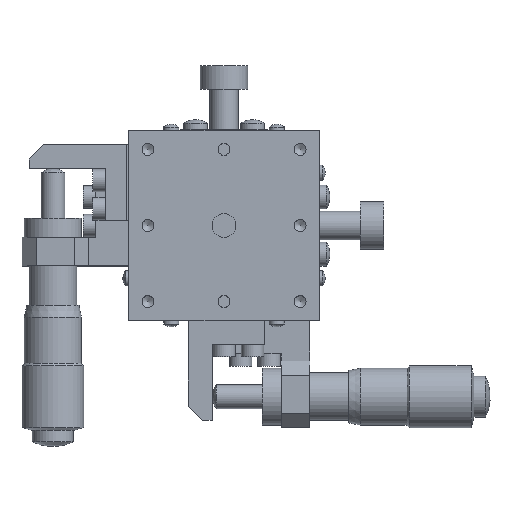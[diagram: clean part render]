
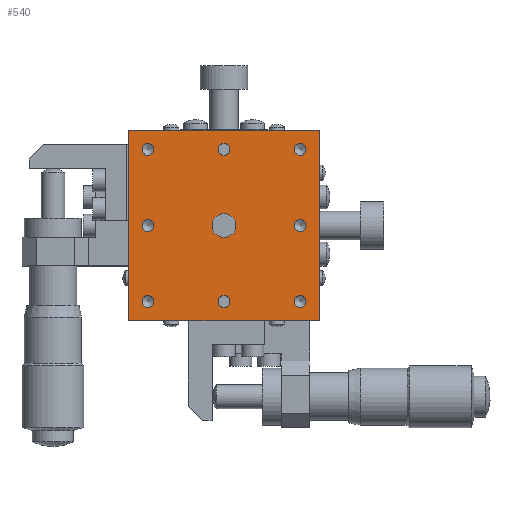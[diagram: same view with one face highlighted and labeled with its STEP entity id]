
A CAD part, top view. The second image highlights one B-rep face of the part: STEP entity #540.
In plain terms, the highlighted planar face has unit normal (0, 0, 1).
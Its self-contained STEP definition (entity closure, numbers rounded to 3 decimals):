
#540 = ADVANCED_FACE( '', ( #1265, #1266, #1267, #1268, #1269, #1270, #1271, #1272, #1273, #1274 ), #1275, .T. );
#1265 = FACE_BOUND( '', #2238, .T. );
#1266 = FACE_BOUND( '', #2239, .T. );
#1267 = FACE_BOUND( '', #2240, .T. );
#1268 = FACE_BOUND( '', #2241, .T. );
#1269 = FACE_BOUND( '', #2242, .T. );
#1270 = FACE_BOUND( '', #2243, .T. );
#1271 = FACE_BOUND( '', #2244, .T. );
#1272 = FACE_BOUND( '', #2245, .T. );
#1273 = FACE_OUTER_BOUND( '', #2246, .T. );
#1274 = FACE_BOUND( '', #2247, .T. );
#1275 = PLANE( '', #2248 );
#2238 = EDGE_LOOP( '', ( #3673 ) );
#2239 = EDGE_LOOP( '', ( #3674 ) );
#2240 = EDGE_LOOP( '', ( #3675 ) );
#2241 = EDGE_LOOP( '', ( #3676 ) );
#2242 = EDGE_LOOP( '', ( #3677 ) );
#2243 = EDGE_LOOP( '', ( #3678 ) );
#2244 = EDGE_LOOP( '', ( #3679 ) );
#2245 = EDGE_LOOP( '', ( #3680 ) );
#2246 = EDGE_LOOP( '', ( #3681, #3682, #3683, #3684 ) );
#2247 = EDGE_LOOP( '', ( #3685 ) );
#2248 = AXIS2_PLACEMENT_3D( '', #3686, #3687, #3688 );
#3673 = ORIENTED_EDGE( '', *, *, #5015, .T. );
#3674 = ORIENTED_EDGE( '', *, *, #5284, .T. );
#3675 = ORIENTED_EDGE( '', *, *, #5437, .T. );
#3676 = ORIENTED_EDGE( '', *, *, #5438, .T. );
#3677 = ORIENTED_EDGE( '', *, *, #5205, .T. );
#3678 = ORIENTED_EDGE( '', *, *, #5439, .T. );
#3679 = ORIENTED_EDGE( '', *, *, #5428, .T. );
#3680 = ORIENTED_EDGE( '', *, *, #5108, .T. );
#3681 = ORIENTED_EDGE( '', *, *, #5440, .T. );
#3682 = ORIENTED_EDGE( '', *, *, #5441, .T. );
#3683 = ORIENTED_EDGE( '', *, *, #5085, .T. );
#3684 = ORIENTED_EDGE( '', *, *, #5410, .T. );
#3685 = ORIENTED_EDGE( '', *, *, #5281, .T. );
#3686 = CARTESIAN_POINT( '', ( 0., 0., 22. ) );
#3687 = DIRECTION( '', ( 0., 0., 1. ) );
#3688 = DIRECTION( '', ( 1., 0., 0. ) );
#5015 = EDGE_CURVE( '', #5864, #5864, #5865, .T. );
#5085 = EDGE_CURVE( '', #5988, #5986, #5989, .T. );
#5108 = EDGE_CURVE( '', #6028, #6028, #6029, .T. );
#5205 = EDGE_CURVE( '', #6187, #6187, #6188, .T. );
#5281 = EDGE_CURVE( '', #6308, #6308, #6309, .T. );
#5284 = EDGE_CURVE( '', #6312, #6312, #6313, .T. );
#5410 = EDGE_CURVE( '', #5986, #6504, #6506, .T. );
#5428 = EDGE_CURVE( '', #6533, #6533, #6534, .T. );
#5437 = EDGE_CURVE( '', #6546, #6546, #6547, .T. );
#5438 = EDGE_CURVE( '', #6548, #6548, #6549, .T. );
#5439 = EDGE_CURVE( '', #6550, #6550, #6551, .T. );
#5440 = EDGE_CURVE( '', #6504, #6552, #6553, .T. );
#5441 = EDGE_CURVE( '', #6552, #5988, #6554, .T. );
#5864 = VERTEX_POINT( '', #7096 );
#5865 = CIRCLE( '', #7097, 1.25 );
#5986 = VERTEX_POINT( '', #7248 );
#5988 = VERTEX_POINT( '', #7251 );
#5989 = LINE( '', #7252, #7253 );
#6028 = VERTEX_POINT( '', #7305 );
#6029 = CIRCLE( '', #7306, 1.25 );
#6187 = VERTEX_POINT( '', #7513 );
#6188 = CIRCLE( '', #7514, 1.25 );
#6308 = VERTEX_POINT( '', #7667 );
#6309 = CIRCLE( '', #7668, 2.5 );
#6312 = VERTEX_POINT( '', #7671 );
#6313 = CIRCLE( '', #7672, 1.25 );
#6504 = VERTEX_POINT( '', #7936 );
#6506 = LINE( '', #7939, #7940 );
#6533 = VERTEX_POINT( '', #7975 );
#6534 = CIRCLE( '', #7976, 1.25 );
#6546 = VERTEX_POINT( '', #7990 );
#6547 = CIRCLE( '', #7991, 1.25 );
#6548 = VERTEX_POINT( '', #7992 );
#6549 = CIRCLE( '', #7993, 1.25 );
#6550 = VERTEX_POINT( '', #7994 );
#6551 = CIRCLE( '', #7995, 1.25 );
#6552 = VERTEX_POINT( '', #7996 );
#6553 = LINE( '', #7997, #7998 );
#6554 = LINE( '', #7999, #8000 );
#7096 = CARTESIAN_POINT( '', ( -16., -1.25, 22. ) );
#7097 = AXIS2_PLACEMENT_3D( '', #8625, #8626, #8627 );
#7248 = CARTESIAN_POINT( '', ( -20., 20., 22. ) );
#7251 = CARTESIAN_POINT( '', ( 20., 20., 22. ) );
#7252 = CARTESIAN_POINT( '', ( 0., 20., 22. ) );
#7253 = VECTOR( '', #8728, 1000. );
#7305 = CARTESIAN_POINT( '', ( -16., -17.25, 22. ) );
#7306 = AXIS2_PLACEMENT_3D( '', #8757, #8758, #8759 );
#7513 = CARTESIAN_POINT( '', ( 16., -1.25, 22. ) );
#7514 = AXIS2_PLACEMENT_3D( '', #8884, #8885, #8886 );
#7667 = CARTESIAN_POINT( '', ( -2.5, 0., 22. ) );
#7668 = AXIS2_PLACEMENT_3D( '', #8983, #8984, #8985 );
#7671 = CARTESIAN_POINT( '', ( -16., 14.75, 22. ) );
#7672 = AXIS2_PLACEMENT_3D( '', #8986, #8987, #8988 );
#7936 = CARTESIAN_POINT( '', ( -20., -20., 22. ) );
#7939 = CARTESIAN_POINT( '', ( -20., 0., 22. ) );
#7940 = VECTOR( '', #9123, 1000. );
#7975 = CARTESIAN_POINT( '', ( 0., -17.25, 22. ) );
#7976 = AXIS2_PLACEMENT_3D( '', #9141, #9142, #9143 );
#7990 = CARTESIAN_POINT( '', ( 0., 14.75, 22. ) );
#7991 = AXIS2_PLACEMENT_3D( '', #9155, #9156, #9157 );
#7992 = CARTESIAN_POINT( '', ( 16., 14.75, 22. ) );
#7993 = AXIS2_PLACEMENT_3D( '', #9158, #9159, #9160 );
#7994 = CARTESIAN_POINT( '', ( 16., -17.25, 22. ) );
#7995 = AXIS2_PLACEMENT_3D( '', #9161, #9162, #9163 );
#7996 = CARTESIAN_POINT( '', ( 20., -20., 22. ) );
#7997 = CARTESIAN_POINT( '', ( 0., -20., 22. ) );
#7998 = VECTOR( '', #9164, 1000. );
#7999 = CARTESIAN_POINT( '', ( 20., 0., 22. ) );
#8000 = VECTOR( '', #9165, 1000. );
#8625 = CARTESIAN_POINT( '', ( -16., 0., 22. ) );
#8626 = DIRECTION( '', ( 0., 0., -1. ) );
#8627 = DIRECTION( '', ( 0., -1., 0. ) );
#8728 = DIRECTION( '', ( -1., 0., 0. ) );
#8757 = CARTESIAN_POINT( '', ( -16., -16., 22. ) );
#8758 = DIRECTION( '', ( 0., 0., -1. ) );
#8759 = DIRECTION( '', ( 0., -1., 0. ) );
#8884 = CARTESIAN_POINT( '', ( 16., 0., 22. ) );
#8885 = DIRECTION( '', ( 0., 0., -1. ) );
#8886 = DIRECTION( '', ( 0., -1., 0. ) );
#8983 = CARTESIAN_POINT( '', ( 0., 0., 22. ) );
#8984 = DIRECTION( '', ( 0., 0., -1. ) );
#8985 = DIRECTION( '', ( -1., 0., 0. ) );
#8986 = CARTESIAN_POINT( '', ( -16., 16., 22. ) );
#8987 = DIRECTION( '', ( 0., 0., -1. ) );
#8988 = DIRECTION( '', ( 0., -1., 0. ) );
#9123 = DIRECTION( '', ( 0., -1., 0. ) );
#9141 = CARTESIAN_POINT( '', ( 0., -16., 22. ) );
#9142 = DIRECTION( '', ( 0., 0., -1. ) );
#9143 = DIRECTION( '', ( 0., -1., 0. ) );
#9155 = CARTESIAN_POINT( '', ( 0., 16., 22. ) );
#9156 = DIRECTION( '', ( 0., 0., -1. ) );
#9157 = DIRECTION( '', ( 0., -1., 0. ) );
#9158 = CARTESIAN_POINT( '', ( 16., 16., 22. ) );
#9159 = DIRECTION( '', ( 0., 0., -1. ) );
#9160 = DIRECTION( '', ( 0., -1., 0. ) );
#9161 = CARTESIAN_POINT( '', ( 16., -16., 22. ) );
#9162 = DIRECTION( '', ( 0., 0., -1. ) );
#9163 = DIRECTION( '', ( 0., -1., 0. ) );
#9164 = DIRECTION( '', ( 1., 0., 0. ) );
#9165 = DIRECTION( '', ( 0., 1., 0. ) );
